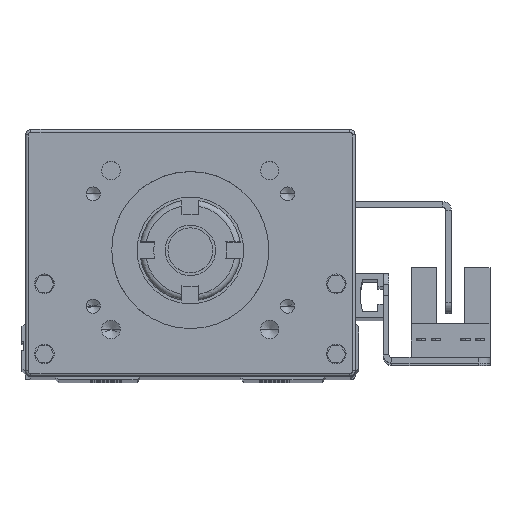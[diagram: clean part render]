
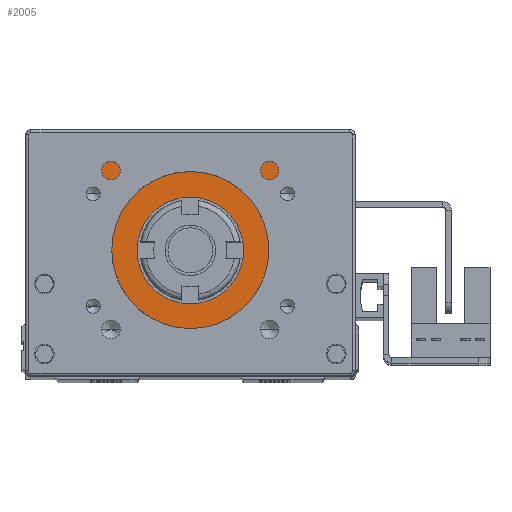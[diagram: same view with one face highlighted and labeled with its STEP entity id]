
A CAD part, top view. The second image highlights one B-rep face of the part: STEP entity #2005.
In plain terms, the highlighted planar face has unit normal (0, 0, 1).
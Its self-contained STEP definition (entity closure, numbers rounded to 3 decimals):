
#744 = CARTESIAN_POINT ( 'NONE',  ( 12.335, 12.398, 168.5 ) ) ;
#1182 = DIRECTION ( 'NONE',  ( -1., 0., 0. ) ) ;
#1486 = CARTESIAN_POINT ( 'NONE',  ( 12.935, 12.398, 168.5 ) ) ;
#1712 = DIRECTION ( 'NONE',  ( 0., 0., -1. ) ) ;
#1823 = ORIENTED_EDGE ( 'NONE', *, *, #45084, .F. ) ;
#1825 = DIRECTION ( 'NONE',  ( 0., 1., 0. ) ) ;
#2005 = ADVANCED_FACE ( 'NONE', ( #20222, #10385 ), #11242, .F. ) ;
#2226 = VERTEX_POINT ( 'NONE', #35405 ) ;
#2692 = CARTESIAN_POINT ( 'NONE',  ( 52.335, 35.398, 168.5 ) ) ;
#3292 = VECTOR ( 'NONE', #7274, 1000. ) ;
#3313 = CARTESIAN_POINT ( 'NONE',  ( 12.335, 45.398, 168.5 ) ) ;
#4464 = VERTEX_POINT ( 'NONE', #52325 ) ;
#4535 = ORIENTED_EDGE ( 'NONE', *, *, #42010, .T. ) ;
#4763 = EDGE_CURVE ( 'NONE', #22874, #30396, #55602, .T. ) ;
#4859 = ORIENTED_EDGE ( 'NONE', *, *, #4763, .T. ) ;
#5302 = DIRECTION ( 'NONE',  ( 0., 0., 1. ) ) ;
#5772 = EDGE_CURVE ( 'NONE', #21616, #2226, #18121, .T. ) ;
#6490 = VERTEX_POINT ( 'NONE', #7702 ) ;
#7009 = LINE ( 'NONE', #27046, #27390 ) ;
#7274 = DIRECTION ( 'NONE',  ( 0., 1., 0. ) ) ;
#7702 = CARTESIAN_POINT ( 'NONE',  ( 22.835, 23.898, 168.5 ) ) ;
#8696 = LINE ( 'NONE', #744, #47325 ) ;
#9066 = DIRECTION ( 'NONE',  ( 0., 1., 0. ) ) ;
#9678 = EDGE_CURVE ( 'NONE', #29965, #49572, #8696, .T. ) ;
#10379 = DIRECTION ( 'NONE',  ( 0., 0., -1. ) ) ;
#10385 = FACE_OUTER_BOUND ( 'NONE', #51545, .T. ) ;
#10946 = CARTESIAN_POINT ( 'NONE',  ( 11.335, 45.398, 168.5 ) ) ;
#11105 = ORIENTED_EDGE ( 'NONE', *, *, #54933, .F. ) ;
#11242 = PLANE ( 'NONE',  #56999 ) ;
#12721 = ORIENTED_EDGE ( 'NONE', *, *, #54788, .T. ) ;
#13297 = LINE ( 'NONE', #51571, #42087 ) ;
#13971 = CARTESIAN_POINT ( 'NONE',  ( 32.335, 23.898, 168.5 ) ) ;
#14109 = CIRCLE ( 'NONE', #43921, 1. ) ;
#14565 = CARTESIAN_POINT ( 'NONE',  ( 12.335, 12.398, 168.5 ) ) ;
#14734 = CARTESIAN_POINT ( 'NONE',  ( 12.335, 35.398, 168.5 ) ) ;
#15258 = VERTEX_POINT ( 'NONE', #37678 ) ;
#15356 = VECTOR ( 'NONE', #9066, 1000. ) ;
#16104 = ORIENTED_EDGE ( 'NONE', *, *, #31407, .F. ) ;
#16660 = DIRECTION ( 'NONE',  ( 0., 0., 1. ) ) ;
#17173 = EDGE_CURVE ( 'NONE', #36373, #29965, #49706, .T. ) ;
#17247 = AXIS2_PLACEMENT_3D ( 'NONE', #23785, #1712, #46722 ) ;
#17373 = DIRECTION ( 'NONE',  ( -1., 0., 0. ) ) ;
#18121 = LINE ( 'NONE', #56028, #3292 ) ;
#18534 = CARTESIAN_POINT ( 'NONE',  ( 32.335, 23.898, 168.5 ) ) ;
#19087 = CARTESIAN_POINT ( 'NONE',  ( 12.335, 12.398, 168.5 ) ) ;
#19242 = VERTEX_POINT ( 'NONE', #2692 ) ;
#19655 = ORIENTED_EDGE ( 'NONE', *, *, #17173, .F. ) ;
#20222 = FACE_BOUND ( 'NONE', #42313, .T. ) ;
#20322 = VERTEX_POINT ( 'NONE', #50661 ) ;
#20329 = AXIS2_PLACEMENT_3D ( 'NONE', #18534, #49787, #22879 ) ;
#21034 = CIRCLE ( 'NONE', #17247, 1. ) ;
#21616 = VERTEX_POINT ( 'NONE', #56771 ) ;
#22874 = VERTEX_POINT ( 'NONE', #34116 ) ;
#22879 = DIRECTION ( 'NONE',  ( 1., 0., 0. ) ) ;
#23785 = CARTESIAN_POINT ( 'NONE',  ( 53.335, 44.398, 168.5 ) ) ;
#25661 = ORIENTED_EDGE ( 'NONE', *, *, #5772, .T. ) ;
#25931 = CARTESIAN_POINT ( 'NONE',  ( 12.335, 44.398, 168.5 ) ) ;
#25986 = CIRCLE ( 'NONE', #48916, 9.5 ) ;
#26037 = ORIENTED_EDGE ( 'NONE', *, *, #49425, .F. ) ;
#27004 = CARTESIAN_POINT ( 'NONE',  ( 12.935, 35.398, 168.5 ) ) ;
#27046 = CARTESIAN_POINT ( 'NONE',  ( 12.335, 12.398, 168.5 ) ) ;
#27390 = VECTOR ( 'NONE', #44705, 1000. ) ;
#27637 = EDGE_CURVE ( 'NONE', #19242, #2226, #51525, .T. ) ;
#27695 = CARTESIAN_POINT ( 'NONE',  ( 52.335, 12.398, 168.5 ) ) ;
#29965 = VERTEX_POINT ( 'NONE', #14734 ) ;
#30396 = VERTEX_POINT ( 'NONE', #10946 ) ;
#30412 = EDGE_CURVE ( 'NONE', #30396, #49572, #14109, .T. ) ;
#30455 = CARTESIAN_POINT ( 'NONE',  ( 52.335, 44.398, 168.5 ) ) ;
#31407 = EDGE_CURVE ( 'NONE', #15258, #51629, #37897, .T. ) ;
#31649 = AXIS2_PLACEMENT_3D ( 'NONE', #13971, #5302, #45571 ) ;
#31665 = VERTEX_POINT ( 'NONE', #30455 ) ;
#32260 = DIRECTION ( 'NONE',  ( 0., 1., 0. ) ) ;
#33532 = EDGE_CURVE ( 'NONE', #21616, #20322, #7009, .T. ) ;
#33641 = DIRECTION ( 'NONE',  ( -1., 0., 0. ) ) ;
#33896 = ORIENTED_EDGE ( 'NONE', *, *, #55538, .T. ) ;
#34116 = CARTESIAN_POINT ( 'NONE',  ( 53.335, 45.398, 168.5 ) ) ;
#35405 = CARTESIAN_POINT ( 'NONE',  ( 51.735, 35.398, 168.5 ) ) ;
#36373 = VERTEX_POINT ( 'NONE', #27004 ) ;
#36480 = VECTOR ( 'NONE', #37179, 1000. ) ;
#37179 = DIRECTION ( 'NONE',  ( -1., 0., 0. ) ) ;
#37678 = CARTESIAN_POINT ( 'NONE',  ( 24.351, 12.398, 168.5 ) ) ;
#37897 = LINE ( 'NONE', #19087, #36480 ) ;
#37957 = CARTESIAN_POINT ( 'NONE',  ( 12.935, 35.398, 168.5 ) ) ;
#37980 = ORIENTED_EDGE ( 'NONE', *, *, #9678, .F. ) ;
#38748 = DIRECTION ( 'NONE',  ( -1., 0., 0. ) ) ;
#39283 = LINE ( 'NONE', #27695, #15356 ) ;
#40048 = CARTESIAN_POINT ( 'NONE',  ( 32.335, 23.898, 168.5 ) ) ;
#40152 = ORIENTED_EDGE ( 'NONE', *, *, #33532, .F. ) ;
#41608 = DIRECTION ( 'NONE',  ( -1., 0., 0. ) ) ;
#42010 = EDGE_CURVE ( 'NONE', #31665, #22874, #21034, .T. ) ;
#42087 = VECTOR ( 'NONE', #1825, 1000. ) ;
#42193 = CARTESIAN_POINT ( 'NONE',  ( 11.335, 44.398, 168.5 ) ) ;
#42313 = EDGE_LOOP ( 'NONE', ( #26037, #11105 ) ) ;
#43921 = AXIS2_PLACEMENT_3D ( 'NONE', #42193, #10379, #41608 ) ;
#44705 = DIRECTION ( 'NONE',  ( -1., 0., 0. ) ) ;
#45053 = CIRCLE ( 'NONE', #31649, 14. ) ;
#45084 = EDGE_CURVE ( 'NONE', #51629, #36373, #13297, .T. ) ;
#45571 = DIRECTION ( 'NONE',  ( -1., 0., 0. ) ) ;
#46455 = VECTOR ( 'NONE', #38748, 1000. ) ;
#46722 = DIRECTION ( 'NONE',  ( -1., 0., 0. ) ) ;
#47325 = VECTOR ( 'NONE', #32260, 1000. ) ;
#47511 = DIRECTION ( 'NONE',  ( 1., 0., 0. ) ) ;
#48257 = VECTOR ( 'NONE', #33641, 1000. ) ;
#48453 = ORIENTED_EDGE ( 'NONE', *, *, #30412, .T. ) ;
#48916 = AXIS2_PLACEMENT_3D ( 'NONE', #40048, #16660, #47511 ) ;
#49425 = EDGE_CURVE ( 'NONE', #4464, #6490, #25986, .T. ) ;
#49572 = VERTEX_POINT ( 'NONE', #25931 ) ;
#49706 = LINE ( 'NONE', #37957, #48257 ) ;
#49787 = DIRECTION ( 'NONE',  ( 0., 0., 1. ) ) ;
#50565 = DIRECTION ( 'NONE',  ( 0., 0., -1. ) ) ;
#50661 = CARTESIAN_POINT ( 'NONE',  ( 40.32, 12.398, 168.5 ) ) ;
#50786 = ORIENTED_EDGE ( 'NONE', *, *, #27637, .F. ) ;
#51525 = LINE ( 'NONE', #57055, #52189 ) ;
#51545 = EDGE_LOOP ( 'NONE', ( #16104, #12721, #40152, #25661, #50786, #33896, #4535, #4859, #48453, #37980, #19655, #1823 ) ) ;
#51571 = CARTESIAN_POINT ( 'NONE',  ( 12.935, 0., 168.5 ) ) ;
#51629 = VERTEX_POINT ( 'NONE', #1486 ) ;
#52189 = VECTOR ( 'NONE', #17373, 1000. ) ;
#52325 = CARTESIAN_POINT ( 'NONE',  ( 41.835, 23.898, 168.5 ) ) ;
#54788 = EDGE_CURVE ( 'NONE', #15258, #20322, #45053, .T. ) ;
#54933 = EDGE_CURVE ( 'NONE', #6490, #4464, #58369, .T. ) ;
#55538 = EDGE_CURVE ( 'NONE', #19242, #31665, #39283, .T. ) ;
#55602 = LINE ( 'NONE', #3313, #46455 ) ;
#56028 = CARTESIAN_POINT ( 'NONE',  ( 51.735, 0., 168.5 ) ) ;
#56771 = CARTESIAN_POINT ( 'NONE',  ( 51.735, 12.398, 168.5 ) ) ;
#56999 = AXIS2_PLACEMENT_3D ( 'NONE', #14565, #50565, #1182 ) ;
#57055 = CARTESIAN_POINT ( 'NONE',  ( 51.735, 35.398, 168.5 ) ) ;
#58369 = CIRCLE ( 'NONE', #20329, 9.5 ) ;
